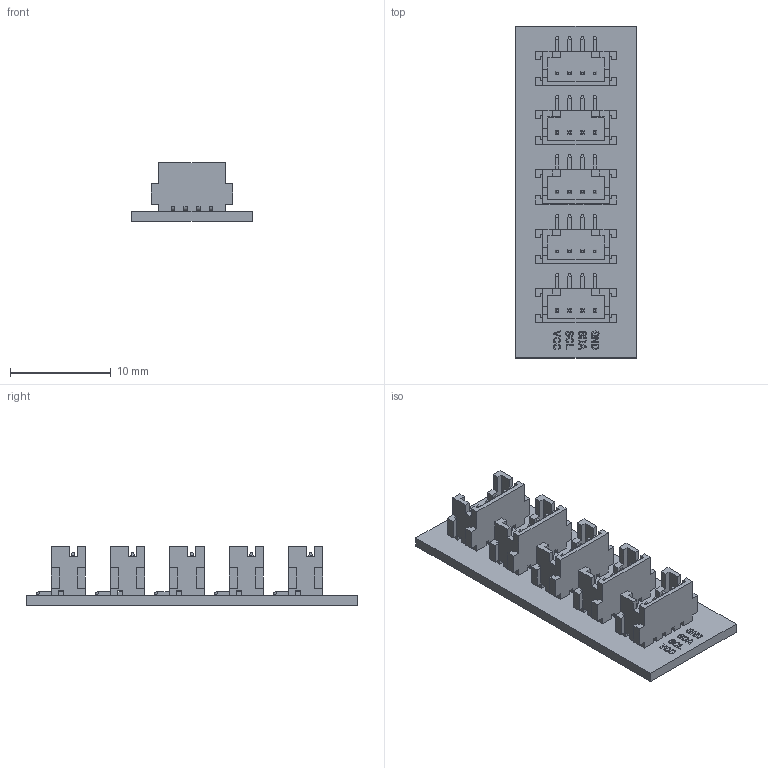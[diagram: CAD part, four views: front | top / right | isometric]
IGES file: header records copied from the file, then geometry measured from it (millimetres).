
Start section: START RECORD GO HERE.
Global section: file name: I2C SPLITTER.igs; native system: DASSAULT SYSTEMES CATIA V5 R20 - www.3ds.com; preprocessor: CATIA Version 5 Release 20 ; author: Drew Sandlin; organization: LATITUDE-E5570; date: 20180902.174543; units: inch
Bounding box: 12 x 33 x 5.8 mm (x, y, z)
Surface area: 2145.1 mm2 (no closed solid volume)
Topology: 0 solids, 0 shells, 1195 faces, 6928 edges, 6928 vertices
Faces by surface type: plane 1155, revolution 40
